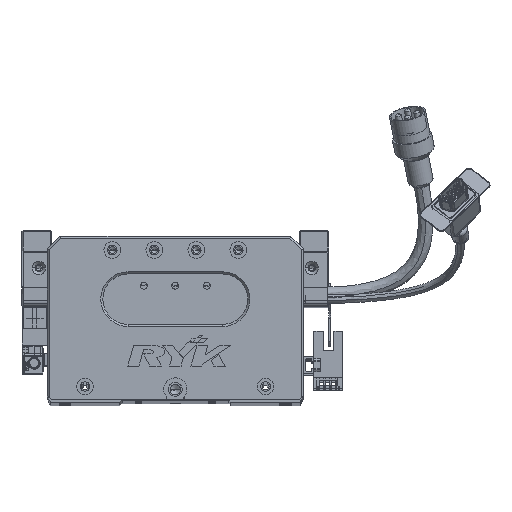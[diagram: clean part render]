
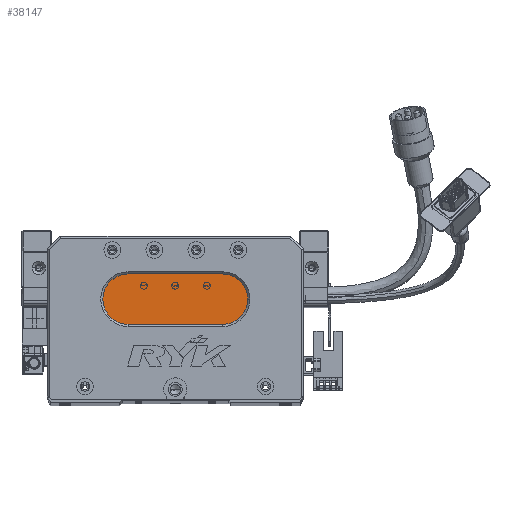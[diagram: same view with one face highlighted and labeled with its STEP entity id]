
A CAD part, top view. The second image highlights one B-rep face of the part: STEP entity #38147.
In plain terms, the highlighted planar face has unit normal (0, 0, 1) as drawn and (0, 0, -1) by its records, which use the part's own axes.
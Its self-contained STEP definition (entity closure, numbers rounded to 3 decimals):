
#45 = ORIENTED_EDGE ( 'NONE', *, *, #40865, .T. ) ;
#686 = DIRECTION ( 'NONE',  ( 0., 0., -1. ) ) ;
#1077 = ORIENTED_EDGE ( 'NONE', *, *, #62932, .T. ) ;
#1513 = DIRECTION ( 'NONE',  ( -1., 0., 0. ) ) ;
#1853 = VERTEX_POINT ( 'NONE', #9214 ) ;
#3857 = DIRECTION ( 'NONE',  ( 0., 0., -1. ) ) ;
#4222 = CARTESIAN_POINT ( 'NONE',  ( 83.5, 48., 13. ) ) ;
#7416 = LINE ( 'NONE', #27372, #52069 ) ;
#8500 = DIRECTION ( 'NONE',  ( -1., 0., 0. ) ) ;
#9214 = CARTESIAN_POINT ( 'NONE',  ( 38.5, 36., 13. ) ) ;
#10031 = ORIENTED_EDGE ( 'NONE', *, *, #42201, .T. ) ;
#10775 = VERTEX_POINT ( 'NONE', #56892 ) ;
#14566 = CIRCLE ( 'NONE', #66259, 12. ) ;
#16851 = DIRECTION ( 'NONE',  ( -1., 0., 0. ) ) ;
#19839 = AXIS2_PLACEMENT_3D ( 'NONE', #23707, #686, #1513 ) ;
#21153 = DIRECTION ( 'NONE',  ( 1., 0., 0. ) ) ;
#23069 = DIRECTION ( 'NONE',  ( 0., 0., -1. ) ) ;
#23446 = EDGE_CURVE ( 'NONE', #10775, #42857, #62578, .T. ) ;
#23705 = ORIENTED_EDGE ( 'NONE', *, *, #46183, .T. ) ;
#23707 = CARTESIAN_POINT ( 'NONE',  ( 38.5, 48., 13. ) ) ;
#24776 = CIRCLE ( 'NONE', #41942, 12. ) ;
#25626 = DIRECTION ( 'NONE',  ( 0., 0., -1. ) ) ;
#26442 = CARTESIAN_POINT ( 'NONE',  ( 38.5, 48., 13. ) ) ;
#27372 = CARTESIAN_POINT ( 'NONE',  ( 83.5, 36., 13. ) ) ;
#29146 = CARTESIAN_POINT ( 'NONE',  ( 83.5, 60., 13. ) ) ;
#29818 = AXIS2_PLACEMENT_3D ( 'NONE', #67120, #3857, #16851 ) ;
#32118 = CARTESIAN_POINT ( 'NONE',  ( 83.5, 36., 13. ) ) ;
#38147 = ADVANCED_FACE ( 'NONE', ( #38770 ), #73214, .T. ) ;
#38378 = CIRCLE ( 'NONE', #19839, 12. ) ;
#38770 = FACE_OUTER_BOUND ( 'NONE', #54847, .T. ) ;
#39093 = CARTESIAN_POINT ( 'NONE',  ( 26.5, 48., 13. ) ) ;
#40054 = CARTESIAN_POINT ( 'NONE',  ( 83.5, 60., 13. ) ) ;
#40865 = EDGE_CURVE ( 'NONE', #1853, #50909, #38378, .T. ) ;
#41942 = AXIS2_PLACEMENT_3D ( 'NONE', #26442, #25626, #70852 ) ;
#42201 = EDGE_CURVE ( 'NONE', #59562, #1853, #7416, .T. ) ;
#42857 = VERTEX_POINT ( 'NONE', #29146 ) ;
#46183 = EDGE_CURVE ( 'NONE', #50909, #10775, #24776, .T. ) ;
#50909 = VERTEX_POINT ( 'NONE', #39093 ) ;
#52069 = VECTOR ( 'NONE', #8500, 1000. ) ;
#54847 = EDGE_LOOP ( 'NONE', ( #1077, #10031, #45, #23705, #74391 ) ) ;
#55254 = DIRECTION ( 'NONE',  ( -1., 0., 0. ) ) ;
#56892 = CARTESIAN_POINT ( 'NONE',  ( 38.5, 60., 13. ) ) ;
#59537 = VECTOR ( 'NONE', #21153, 1000. ) ;
#59562 = VERTEX_POINT ( 'NONE', #32118 ) ;
#62578 = LINE ( 'NONE', #40054, #59537 ) ;
#62932 = EDGE_CURVE ( 'NONE', #42857, #59562, #14566, .T. ) ;
#66259 = AXIS2_PLACEMENT_3D ( 'NONE', #4222, #23069, #55254 ) ;
#67120 = CARTESIAN_POINT ( 'NONE',  ( 83.5, 48., 13. ) ) ;
#70852 = DIRECTION ( 'NONE',  ( -1., 0., 0. ) ) ;
#73214 = PLANE ( 'NONE',  #29818 ) ;
#74391 = ORIENTED_EDGE ( 'NONE', *, *, #23446, .T. ) ;
